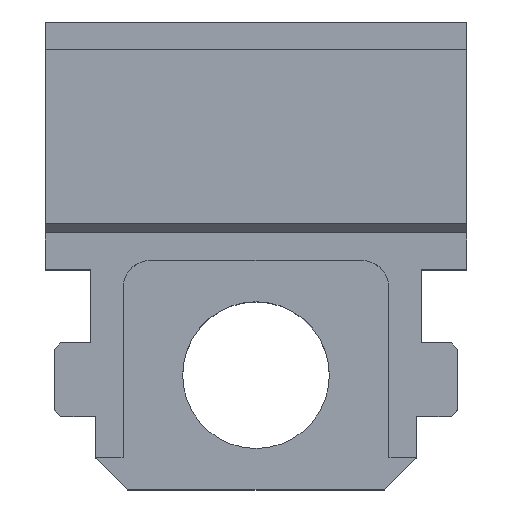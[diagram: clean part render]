
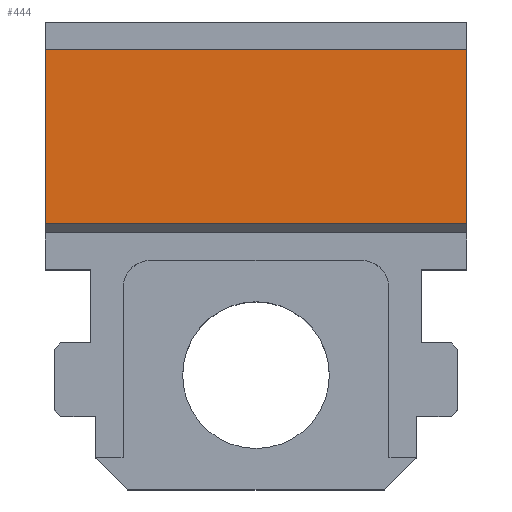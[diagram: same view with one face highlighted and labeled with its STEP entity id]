
A CAD part, top view. The second image highlights one B-rep face of the part: STEP entity #444.
In plain terms, the highlighted planar face has unit normal (0, 0, 1).
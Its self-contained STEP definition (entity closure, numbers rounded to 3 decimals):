
#107 = LINE ( 'NONE', #729, #681 ) ;
#170 = EDGE_CURVE ( 'NONE', #311, #2175, #1368, .T. ) ;
#311 = VERTEX_POINT ( 'NONE', #1078 ) ;
#362 = AXIS2_PLACEMENT_3D ( 'NONE', #760, #1972, #2653 ) ;
#444 = ADVANCED_FACE ( 'NONE', ( #2383 ), #1527, .F. ) ;
#445 = EDGE_LOOP ( 'NONE', ( #2006, #2466, #1750, #1811 ) ) ;
#551 = CARTESIAN_POINT ( 'NONE',  ( 23., 62., 16.25 ) ) ;
#610 = CARTESIAN_POINT ( 'NONE',  ( 23., 62., 16.25 ) ) ;
#611 = LINE ( 'NONE', #1439, #2153 ) ;
#681 = VECTOR ( 'NONE', #1802, 1000. ) ;
#729 = CARTESIAN_POINT ( 'NONE',  ( 23., 43., 16.25 ) ) ;
#733 = EDGE_CURVE ( 'NONE', #2300, #311, #1618, .T. ) ;
#760 = CARTESIAN_POINT ( 'NONE',  ( 23., 43., 16.25 ) ) ;
#907 = DIRECTION ( 'NONE',  ( 0., -1., 0. ) ) ;
#1078 = CARTESIAN_POINT ( 'NONE',  ( -23., 62., 16.25 ) ) ;
#1152 = CARTESIAN_POINT ( 'NONE',  ( -23., 43., 16.25 ) ) ;
#1368 = LINE ( 'NONE', #1152, #1906 ) ;
#1439 = CARTESIAN_POINT ( 'NONE',  ( 23., 43., 16.25 ) ) ;
#1527 = PLANE ( 'NONE',  #362 ) ;
#1544 = EDGE_CURVE ( 'NONE', #2595, #2175, #107, .T. ) ;
#1618 = LINE ( 'NONE', #610, #2493 ) ;
#1750 = ORIENTED_EDGE ( 'NONE', *, *, #1883, .F. ) ;
#1802 = DIRECTION ( 'NONE',  ( -1., 0., 0. ) ) ;
#1811 = ORIENTED_EDGE ( 'NONE', *, *, #733, .T. ) ;
#1883 = EDGE_CURVE ( 'NONE', #2300, #2595, #611, .T. ) ;
#1906 = VECTOR ( 'NONE', #907, 1000. ) ;
#1972 = DIRECTION ( 'NONE',  ( 0., 0., -1. ) ) ;
#1998 = CARTESIAN_POINT ( 'NONE',  ( 23., 43., 16.25 ) ) ;
#2006 = ORIENTED_EDGE ( 'NONE', *, *, #170, .T. ) ;
#2153 = VECTOR ( 'NONE', #2480, 1000. ) ;
#2175 = VERTEX_POINT ( 'NONE', #2681 ) ;
#2300 = VERTEX_POINT ( 'NONE', #551 ) ;
#2383 = FACE_OUTER_BOUND ( 'NONE', #445, .T. ) ;
#2466 = ORIENTED_EDGE ( 'NONE', *, *, #1544, .F. ) ;
#2468 = DIRECTION ( 'NONE',  ( -1., 0., 0. ) ) ;
#2480 = DIRECTION ( 'NONE',  ( 0., -1., 0. ) ) ;
#2493 = VECTOR ( 'NONE', #2468, 1000. ) ;
#2595 = VERTEX_POINT ( 'NONE', #1998 ) ;
#2653 = DIRECTION ( 'NONE',  ( -1., 0., 0. ) ) ;
#2681 = CARTESIAN_POINT ( 'NONE',  ( -23., 43., 16.25 ) ) ;
